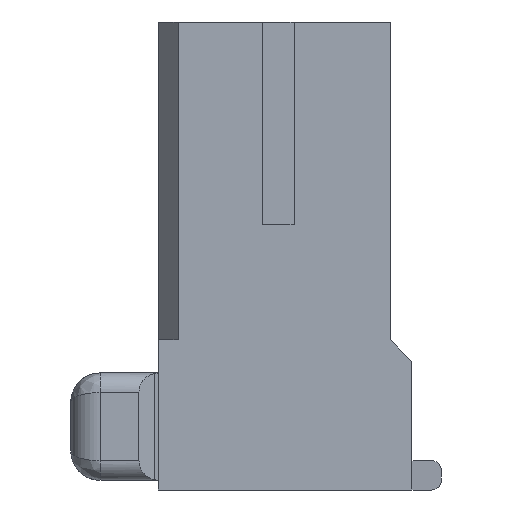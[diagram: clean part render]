
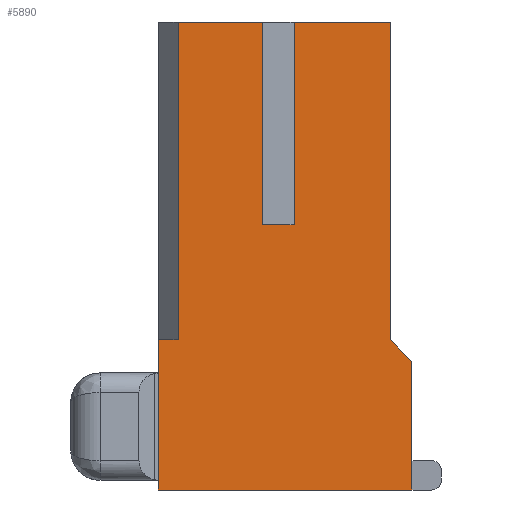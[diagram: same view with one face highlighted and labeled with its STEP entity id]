
A CAD part, left-side view. The second image highlights one B-rep face of the part: STEP entity #5890.
In plain terms, the highlighted planar face has unit normal (-1, 0, 0).
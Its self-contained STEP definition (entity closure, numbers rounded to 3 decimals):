
#244=DIRECTION('',(0.,-1.,0.));
#245=VECTOR('',#244,4.95);
#246=CARTESIAN_POINT('',(-20.,-0.825,0.));
#247=LINE('',#246,#245);
#260=DIRECTION('',(0.,-1.,0.));
#261=VECTOR('',#260,4.343);
#262=CARTESIAN_POINT('',(-20.,5.118,0.));
#263=LINE('',#262,#261);
#1148=DIRECTION('',(0.,1.,0.));
#1149=VECTOR('',#1148,1.6);
#1150=CARTESIAN_POINT('',(-20.,-0.825,-10.4));
#1151=LINE('',#1150,#1149);
#1152=DIRECTION('',(0.,0.,-1.));
#1153=VECTOR('',#1152,10.4);
#1154=CARTESIAN_POINT('',(-20.,-0.825,0.));
#1155=LINE('',#1154,#1153);
#1156=DIRECTION('',(0.,0.,-1.));
#1157=VECTOR('',#1156,16.3);
#1158=CARTESIAN_POINT('',(-20.,-5.775,0.));
#1159=LINE('',#1158,#1157);
#1160=DIRECTION('',(0.,-0.707,-0.707));
#1161=VECTOR('',#1160,1.556);
#1162=CARTESIAN_POINT('',(-20.,-5.775,-16.3));
#1163=LINE('',#1162,#1161);
#1164=DIRECTION('',(0.,0.,-1.));
#1165=VECTOR('',#1164,7.7);
#1166=CARTESIAN_POINT('',(-20.,6.125,-16.3));
#1167=LINE('',#1166,#1165);
#1168=DIRECTION('',(0.,-1.,0.));
#1169=VECTOR('',#1168,1.007);
#1170=CARTESIAN_POINT('',(-20.,6.125,-16.3));
#1171=LINE('',#1170,#1169);
#1172=DIRECTION('',(0.,0.,-1.));
#1173=VECTOR('',#1172,16.3);
#1174=CARTESIAN_POINT('',(-20.,5.118,0.));
#1175=LINE('',#1174,#1173);
#1176=DIRECTION('',(0.,0.,-1.));
#1177=VECTOR('',#1176,10.4);
#1178=CARTESIAN_POINT('',(-20.,0.775,0.));
#1179=LINE('',#1178,#1177);
#1504=DIRECTION('',(0.,-1.,0.));
#1505=VECTOR('',#1504,13.);
#1506=CARTESIAN_POINT('',(-20.,6.125,-24.));
#1507=LINE('',#1506,#1505);
#1992=DIRECTION('',(0.,0.,-1.));
#1993=VECTOR('',#1992,6.6);
#1994=CARTESIAN_POINT('',(-20.,-6.875,-17.4));
#1995=LINE('',#1994,#1993);
#3776=CARTESIAN_POINT('',(-20.,6.125,-24.));
#3777=CARTESIAN_POINT('',(-20.,-6.875,-24.));
#3778=VERTEX_POINT('',#3776);
#3779=VERTEX_POINT('',#3777);
#3784=CARTESIAN_POINT('',(-20.,-5.775,0.));
#3785=CARTESIAN_POINT('',(-20.,-5.775,-16.3));
#3786=VERTEX_POINT('',#3784);
#3787=VERTEX_POINT('',#3785);
#3788=CARTESIAN_POINT('',(-20.,-6.875,-17.4));
#3789=VERTEX_POINT('',#3788);
#4355=CARTESIAN_POINT('',(-20.,-0.825,0.));
#4357=VERTEX_POINT('',#4355);
#4361=CARTESIAN_POINT('',(-20.,0.775,0.));
#4362=VERTEX_POINT('',#4361);
#4363=CARTESIAN_POINT('',(-20.,-0.825,-10.4));
#4364=CARTESIAN_POINT('',(-20.,0.775,-10.4));
#4365=VERTEX_POINT('',#4363);
#4366=VERTEX_POINT('',#4364);
#4383=CARTESIAN_POINT('',(-20.,5.118,0.));
#4385=VERTEX_POINT('',#4383);
#4387=CARTESIAN_POINT('',(-20.,6.125,-16.3));
#4388=CARTESIAN_POINT('',(-20.,5.118,-16.3));
#4389=VERTEX_POINT('',#4387);
#4390=VERTEX_POINT('',#4388);
#5865=CARTESIAN_POINT('',(-20.,6.125,0.));
#5866=DIRECTION('',(-1.,0.,0.));
#5867=DIRECTION('',(0.,-1.,0.));
#5868=AXIS2_PLACEMENT_3D('',#5865,#5866,#5867);
#5869=PLANE('',#5868);
#5871=ORIENTED_EDGE('',*,*,#5870,.F.);
#5873=ORIENTED_EDGE('',*,*,#5872,.F.);
#5874=ORIENTED_EDGE('',*,*,#5001,.T.);
#5875=ORIENTED_EDGE('',*,*,#5765,.T.);
#5876=ORIENTED_EDGE('',*,*,#5747,.T.);
#5878=ORIENTED_EDGE('',*,*,#5877,.T.);
#5880=ORIENTED_EDGE('',*,*,#5879,.F.);
#5881=ORIENTED_EDGE('',*,*,#5652,.F.);
#5882=ORIENTED_EDGE('',*,*,#5714,.T.);
#5884=ORIENTED_EDGE('',*,*,#5883,.F.);
#5885=ORIENTED_EDGE('',*,*,#5009,.T.);
#5887=ORIENTED_EDGE('',*,*,#5886,.T.);
#5888=EDGE_LOOP('',(#5871,#5873,#5874,#5875,#5876,#5878,#5880,#5881,#5882,#5884,
#5885,#5887));
#5889=FACE_OUTER_BOUND('',#5888,.F.);
#5890=ADVANCED_FACE('',(#5889),#5869,.T.);
#5001=EDGE_CURVE('',#4357,#3786,#247,.T.);
#5009=EDGE_CURVE('',#4385,#4362,#263,.T.);
#5652=EDGE_CURVE('',#4389,#3778,#1167,.T.);
#5714=EDGE_CURVE('',#4389,#4390,#1171,.T.);
#5747=EDGE_CURVE('',#3787,#3789,#1163,.T.);
#5765=EDGE_CURVE('',#3786,#3787,#1159,.T.);
#5870=EDGE_CURVE('',#4365,#4366,#1151,.T.);
#5872=EDGE_CURVE('',#4357,#4365,#1155,.T.);
#5877=EDGE_CURVE('',#3789,#3779,#1995,.T.);
#5879=EDGE_CURVE('',#3778,#3779,#1507,.T.);
#5883=EDGE_CURVE('',#4385,#4390,#1175,.T.);
#5886=EDGE_CURVE('',#4362,#4366,#1179,.T.);
